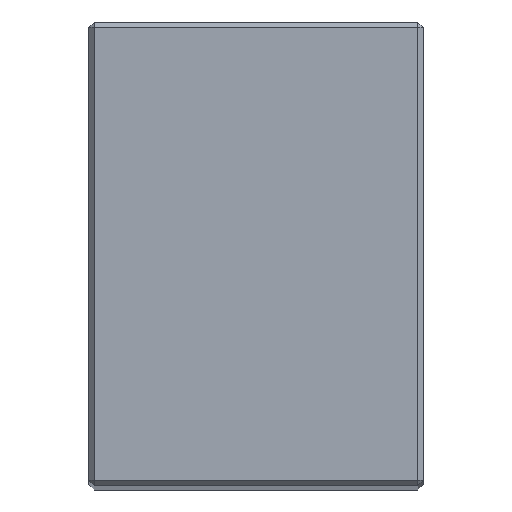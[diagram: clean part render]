
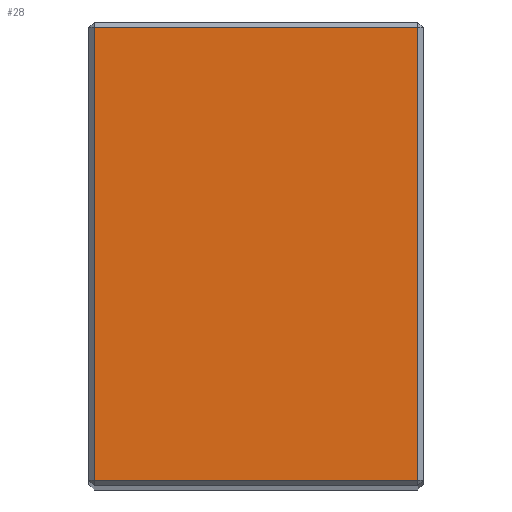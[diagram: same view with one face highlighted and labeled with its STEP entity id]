
A CAD part, top view. The second image highlights one B-rep face of the part: STEP entity #28.
In plain terms, the highlighted planar face has unit normal (0, 0, 1).
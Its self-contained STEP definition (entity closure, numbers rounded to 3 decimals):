
#12 = DIRECTION ( 'NONE',  ( 0., -1., 0. ) ) ;
#28 = ADVANCED_FACE ( 'NONE', ( #356 ), #297, .F. ) ;
#32 = VERTEX_POINT ( 'NONE', #235 ) ;
#64 = AXIS2_PLACEMENT_3D ( 'NONE', #122, #117, #129 ) ;
#74 = VERTEX_POINT ( 'NONE', #160 ) ;
#81 = VECTOR ( 'NONE', #12, 1000. ) ;
#86 = DIRECTION ( 'NONE',  ( 1., 0., 0. ) ) ;
#89 = LINE ( 'NONE', #348, #461 ) ;
#117 = DIRECTION ( 'NONE',  ( 0., 0., -1. ) ) ;
#122 = CARTESIAN_POINT ( 'NONE',  ( 31., 86., 223. ) ) ;
#129 = DIRECTION ( 'NONE',  ( -1., 0., 0. ) ) ;
#160 = CARTESIAN_POINT ( 'NONE',  ( -30., 1., 223. ) ) ;
#235 = CARTESIAN_POINT ( 'NONE',  ( -30., 85., 223. ) ) ;
#245 = VECTOR ( 'NONE', #491, 1000. ) ;
#247 = LINE ( 'NONE', #425, #81 ) ;
#270 = CARTESIAN_POINT ( 'NONE',  ( 30., 1., 223. ) ) ;
#271 = EDGE_CURVE ( 'NONE', #32, #74, #247, .T. ) ;
#297 = PLANE ( 'NONE',  #64 ) ;
#314 = VECTOR ( 'NONE', #86, 1000. ) ;
#332 = EDGE_CURVE ( 'NONE', #74, #458, #437, .T. ) ;
#348 = CARTESIAN_POINT ( 'NONE',  ( 30., 86., 223. ) ) ;
#355 = ORIENTED_EDGE ( 'NONE', *, *, #463, .T. ) ;
#356 = FACE_OUTER_BOUND ( 'NONE', #575, .T. ) ;
#366 = DIRECTION ( 'NONE',  ( 0., 1., 0. ) ) ;
#368 = CARTESIAN_POINT ( 'NONE',  ( 30., 85., 223. ) ) ;
#425 = CARTESIAN_POINT ( 'NONE',  ( -30., 86., 223. ) ) ;
#437 = LINE ( 'NONE', #547, #314 ) ;
#439 = VERTEX_POINT ( 'NONE', #368 ) ;
#452 = ORIENTED_EDGE ( 'NONE', *, *, #271, .T. ) ;
#458 = VERTEX_POINT ( 'NONE', #270 ) ;
#461 = VECTOR ( 'NONE', #366, 1000. ) ;
#463 = EDGE_CURVE ( 'NONE', #458, #439, #89, .T. ) ;
#466 = ORIENTED_EDGE ( 'NONE', *, *, #332, .T. ) ;
#491 = DIRECTION ( 'NONE',  ( -1., 0., 0. ) ) ;
#547 = CARTESIAN_POINT ( 'NONE',  ( 31., 1., 223. ) ) ;
#566 = CARTESIAN_POINT ( 'NONE',  ( -31., 85., 223. ) ) ;
#575 = EDGE_LOOP ( 'NONE', ( #599, #452, #466, #355 ) ) ;
#586 = EDGE_CURVE ( 'NONE', #439, #32, #635, .T. ) ;
#599 = ORIENTED_EDGE ( 'NONE', *, *, #586, .T. ) ;
#635 = LINE ( 'NONE', #566, #245 ) ;
